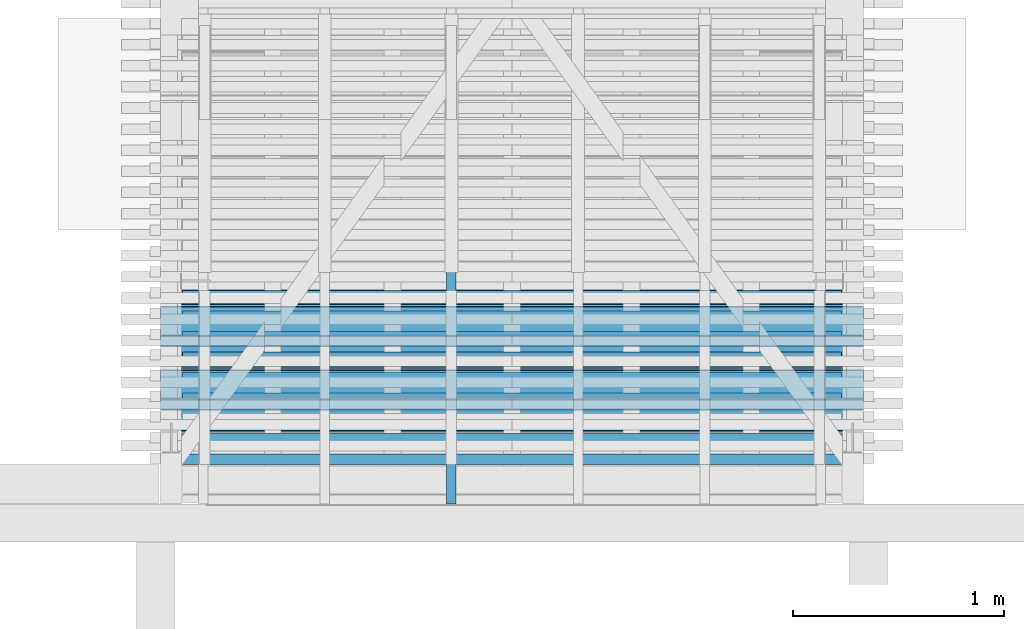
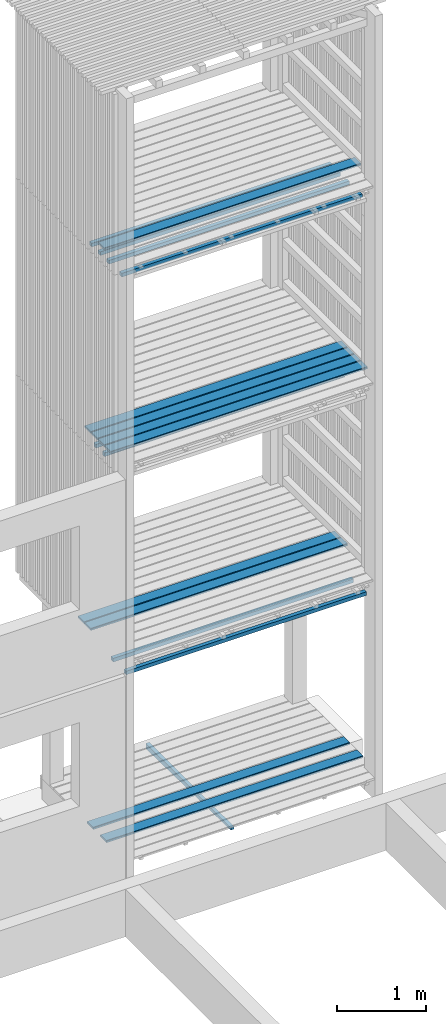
# One storey, part 66 of 182: 18 beams.
"""IFC2X3 building model written with IfcOpenShell, lengths in metres."""

from ifc_helpers import new_model, si_unit, frame, origin, place, context, project, spatial, faceted_brep, element, save


model = new_model("IFC2X3")

# Units and contexts
model_context = context("Model", 3, precision=1e-06, world=origin())
ifc_project = project(units=[si_unit("LENGTHUNIT", "METRE"), si_unit("PLANEANGLEUNIT", "RADIAN")], contexts=[model_context])

# Site, building, storey
site = spatial("IfcSite", under=ifc_project, CompositionType="ELEMENT")
building = spatial("IfcBuilding", under=site, CompositionType="ELEMENT")
storey = spatial("IfcBuildingStorey", under=building, Name="vs", CompositionType="ELEMENT", Elevation=-0.85)

# Beams
placement = place(None, origin())
beam_1_placement = place(placement, frame((26.374999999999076, 10.884577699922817, 5.433499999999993), z_axis=(0.0, 0.0, 1.0), x_axis=(-1.0, -2e-15, 0.0)))
element("IfcBeam", 1, at=beam_1_placement, inside=storey, Name="Caillebotis", context=model_context, shape_type="Brep", body=[
    faceted_brep([(3.329999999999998, -0.072500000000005, -0.0135), (3.329999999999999, 0.072499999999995, -0.0135), (3.329999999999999, 0.072499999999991, 0.0085), (3.329999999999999, 0.067499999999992, 0.0135), (3.329999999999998, -0.067500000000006, 0.0135), (3.329999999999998, -0.072500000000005, 0.008500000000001), (0.0, -0.072500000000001, 0.008500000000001), (0.0, -0.067499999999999, 0.0135), (0.0, 0.067500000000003, 0.0135), (0.0, 0.072500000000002, 0.0085), (0.0, 0.072500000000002, -0.0135), (0.0, -0.072500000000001, -0.0135), (3.329999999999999, 0.072499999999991, 0.0085), (3.329999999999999, 0.072499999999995, -0.0135), (0.0, 0.072500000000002, -0.0135), (0.0, 0.072500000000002, 0.0085), (3.329999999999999, 0.067499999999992, 0.0135), (3.329999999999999, 0.072499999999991, 0.0085), (0.0, 0.072500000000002, 0.0085), (0.0, 0.067500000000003, 0.0135), (3.329999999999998, -0.067500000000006, 0.0135), (3.329999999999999, 0.067499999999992, 0.0135), (0.0, 0.067500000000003, 0.0135), (0.0, -0.067499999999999, 0.0135), (3.329999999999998, -0.072500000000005, 0.008500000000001), (3.329999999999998, -0.067500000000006, 0.0135), (0.0, -0.067499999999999, 0.0135), (0.0, -0.072500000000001, 0.008500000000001), (3.329999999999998, -0.072500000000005, -0.0135), (3.329999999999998, -0.072500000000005, 0.008500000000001), (0.0, -0.072500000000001, 0.008500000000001), (0.0, -0.072500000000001, -0.0135), (0.0, 0.072500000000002, -0.0135), (3.329999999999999, 0.072499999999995, -0.0135), (3.329999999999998, -0.072500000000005, -0.0135), (0.0, -0.072500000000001, -0.0135)], [[[0, 1, 2, 3, 4, 5]], [[6, 7, 8, 9, 10, 11]], [[12, 13, 14, 15]], [[16, 17, 18, 19]], [[20, 21, 22, 23]], [[24, 25, 26, 27]], [[28, 29, 30, 31]], [[32, 33, 34, 35]]]),
])
beam_2_placement = place(placement, frame((26.269999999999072, 11.358202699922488, 5.167999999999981), z_axis=(0.0, 0.0, 1.0), x_axis=(-1.0, -1e-15, 0.0)))
element("IfcBeam", 2, at=beam_2_placement, inside=storey, Name="Bardage", context=model_context, shape_type="Brep", body=[
    faceted_brep([(3.120000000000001, 0.024999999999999, -0.025), (3.120000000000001, -0.025000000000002, -0.025), (-3e-15, -0.025000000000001, -0.025), (-3e-15, 0.025000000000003, -0.025), (-3e-15, -0.025000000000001, -0.025), (3.120000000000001, -0.025000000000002, -0.025), (3.120000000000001, -0.025000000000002, 0.025000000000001), (-3e-15, -0.025000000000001, 0.025000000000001), (3.120000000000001, -0.025000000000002, -0.025), (3.120000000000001, 0.024999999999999, -0.025), (3.120000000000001, 0.024999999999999, 0.025000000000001), (3.120000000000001, -0.025000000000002, 0.025000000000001), (3.120000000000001, 0.024999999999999, 0.025000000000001), (3.120000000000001, 0.024999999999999, -0.025), (-3e-15, 0.025000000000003, -0.025), (-3e-15, 0.025000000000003, 0.025000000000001), (-3e-15, -0.025000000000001, 0.025000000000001), (3.120000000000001, -0.025000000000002, 0.025000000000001), (3.120000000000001, 0.024999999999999, 0.025000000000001), (-3e-15, 0.025000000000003, 0.025000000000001), (-3e-15, -0.025000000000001, -0.025), (-3e-15, -0.025000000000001, 0.025000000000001), (-3e-15, 0.025000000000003, 0.025000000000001), (-3e-15, 0.025000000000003, -0.025)], [[[0, 1, 2, 3]], [[4, 5, 6, 7]], [[8, 9, 10, 11]], [[12, 13, 14, 15]], [[16, 17, 18, 19]], [[20, 21, 22, 23]]]),
])
beam_3_placement = place(placement, frame((26.269999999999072, 11.164452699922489, 5.167999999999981), z_axis=(0.0, 0.0, 1.0), x_axis=(-1.0, 0.0, 0.0)))
element("IfcBeam", 3, at=beam_3_placement, inside=storey, Name="Bardage", context=model_context, shape_type="Brep", body=[
    faceted_brep([(3.120000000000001, 0.025000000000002, -0.025), (3.120000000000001, -0.024999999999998, -0.025), (-3e-15, -0.024999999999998, -0.025), (-3e-15, 0.024999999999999, -0.025), (-3e-15, -0.024999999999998, -0.025), (3.120000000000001, -0.024999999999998, -0.025), (3.120000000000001, -0.024999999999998, 0.025000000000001), (-3e-15, -0.024999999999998, 0.025000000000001), (3.120000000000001, -0.024999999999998, -0.025), (3.120000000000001, 0.025000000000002, -0.025), (3.120000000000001, 0.025000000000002, 0.025000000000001), (3.120000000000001, -0.024999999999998, 0.025000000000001), (3.120000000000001, 0.025000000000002, 0.025000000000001), (3.120000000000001, 0.025000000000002, -0.025), (-3e-15, 0.024999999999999, -0.025), (-3e-15, 0.024999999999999, 0.025000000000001), (-3e-15, -0.024999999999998, 0.025000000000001), (3.120000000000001, -0.024999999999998, 0.025000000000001), (3.120000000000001, 0.025000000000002, 0.025000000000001), (-3e-15, 0.024999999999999, 0.025000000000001), (-3e-15, -0.024999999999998, -0.025), (-3e-15, -0.024999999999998, 0.025000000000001), (-3e-15, 0.024999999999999, 0.025000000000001), (-3e-15, 0.024999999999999, -0.025)], [[[0, 1, 2, 3]], [[4, 5, 6, 7]], [[8, 9, 10, 11]], [[12, 13, 14, 15]], [[16, 17, 18, 19]], [[20, 21, 22, 23]]]),
])
beam_4_placement = place(placement, frame((26.269999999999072, 10.680077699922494, 2.467999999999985), z_axis=(0.0, 0.0, 1.0), x_axis=(-1.0, 0.0, 0.0)))
element("IfcBeam", 4, at=beam_4_placement, inside=storey, Name="Bardage", context=model_context, shape_type="Brep", body=[
    faceted_brep([(3.120000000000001, -0.025000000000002, 0.025), (3.120000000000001, -0.025000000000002, -0.025), (3.120000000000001, 0.024999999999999, -0.025), (3.120000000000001, 0.024999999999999, 0.025), (-3e-15, 0.024999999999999, 0.025), (-3e-15, 0.024999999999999, -0.025), (-3e-15, -0.025000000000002, -0.025), (-3e-15, -0.025000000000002, 0.025), (3.120000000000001, -0.025000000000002, -0.025), (3.120000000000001, -0.025000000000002, 0.025), (-3e-15, -0.025000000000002, 0.025), (-3e-15, -0.025000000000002, -0.025), (3.120000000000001, 0.024999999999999, -0.025), (3.120000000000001, -0.025000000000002, -0.025), (-3e-15, -0.025000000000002, -0.025), (-3e-15, 0.024999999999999, -0.025), (3.120000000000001, 0.024999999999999, 0.025), (3.120000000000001, 0.024999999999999, -0.025), (-3e-15, 0.024999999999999, -0.025), (-3e-15, 0.024999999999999, 0.025), (3.120000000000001, -0.025000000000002, 0.025), (3.120000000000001, 0.024999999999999, 0.025), (-3e-15, 0.024999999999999, 0.025), (-3e-15, -0.025000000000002, 0.025)], [[[0, 1, 2, 3]], [[4, 5, 6, 7]], [[8, 9, 10, 11]], [[12, 13, 14, 15]], [[16, 17, 18, 19]], [[20, 21, 22, 23]]]),
])
beam_5_placement = place(placement, frame((26.374999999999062, 10.984577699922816, 0.033500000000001), z_axis=(0.0, 0.0, 1.0), x_axis=(-1.0, -1e-15, 0.0)))
element("IfcBeam", 5, at=beam_5_placement, inside=storey, Name="Caillebotis", context=model_context, shape_type="Brep", body=[
    faceted_brep([(3.329999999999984, -0.067500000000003, 0.0135), (3.329999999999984, -0.072500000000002, 0.008500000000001), (3.329999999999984, -0.072499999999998, -0.013500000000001), (3.329999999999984, 0.072499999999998, -0.013500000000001), (3.329999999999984, 0.072499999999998, 0.0085), (3.329999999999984, 0.067500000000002, 0.0135), (0.0, 0.067500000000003, 0.0135), (0.0, 0.072500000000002, 0.0085), (0.0, 0.072500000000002, -0.013500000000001), (0.0, -0.072499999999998, -0.013500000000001), (0.0, -0.072499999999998, 0.008500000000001), (0.0, -0.067499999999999, 0.0135), (3.329999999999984, -0.072499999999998, -0.013500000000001), (3.329999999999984, -0.072500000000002, 0.008500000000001), (0.0, -0.072499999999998, 0.008500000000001), (0.0, -0.072499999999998, -0.013500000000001), (3.329999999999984, 0.072499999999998, -0.013500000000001), (3.329999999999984, -0.072499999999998, -0.013500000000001), (0.0, -0.072499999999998, -0.013500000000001), (0.0, 0.072500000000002, -0.013500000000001), (3.329999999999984, 0.072499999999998, 0.0085), (3.329999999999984, 0.072499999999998, -0.013500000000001), (0.0, 0.072500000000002, -0.013500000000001), (0.0, 0.072500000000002, 0.0085), (3.329999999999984, 0.067500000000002, 0.0135), (3.329999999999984, 0.072499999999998, 0.0085), (0.0, 0.072500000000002, 0.0085), (0.0, 0.067500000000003, 0.0135), (3.329999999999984, -0.067500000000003, 0.0135), (3.329999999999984, 0.067500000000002, 0.0135), (0.0, 0.067500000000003, 0.0135), (0.0, -0.067499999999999, 0.0135), (0.0, -0.072499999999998, 0.008500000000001), (3.329999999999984, -0.072500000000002, 0.008500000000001), (3.329999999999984, -0.067500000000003, 0.0135), (0.0, -0.067499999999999, 0.0135)], [[[0, 1, 2, 3, 4, 5]], [[6, 7, 8, 9, 10, 11]], [[12, 13, 14, 15]], [[16, 17, 18, 19]], [[20, 21, 22, 23]], [[24, 25, 26, 27]], [[28, 29, 30, 31]], [[32, 33, 34, 35]]]),
])
beam_6_placement = place(placement, frame((26.374999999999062, 11.484577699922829, 2.733499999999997), z_axis=(0.0, 0.0, 1.0), x_axis=(-1.0, -8e-15, 0.0)))
element("IfcBeam", 6, at=beam_6_placement, inside=storey, Name="Caillebotis", context=model_context, shape_type="Brep", body=[
    faceted_brep([(3.329999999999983, -0.072500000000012, -0.0135), (3.329999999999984, 0.072499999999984, -0.0135), (3.329999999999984, 0.072499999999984, 0.0085), (3.329999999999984, 0.067499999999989, 0.0135), (3.329999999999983, -0.067500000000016, 0.0135), (3.329999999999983, -0.072500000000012, 0.008500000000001), (-1.5e-14, -0.072499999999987, 0.008500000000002), (-1.5e-14, -0.067499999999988, 0.0135), (-1.4e-14, 0.067500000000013, 0.0135), (-1.4e-14, 0.072500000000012, 0.0085), (-1.4e-14, 0.072500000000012, -0.0135), (-1.5e-14, -0.072499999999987, -0.0135), (3.329999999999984, 0.072499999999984, 0.0085), (3.329999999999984, 0.072499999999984, -0.0135), (-1.4e-14, 0.072500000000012, -0.0135), (-1.4e-14, 0.072500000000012, 0.0085), (3.329999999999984, 0.067499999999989, 0.0135), (3.329999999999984, 0.072499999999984, 0.0085), (-1.4e-14, 0.072500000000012, 0.0085), (-1.4e-14, 0.067500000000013, 0.0135), (3.329999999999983, -0.067500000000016, 0.0135), (3.329999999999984, 0.067499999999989, 0.0135), (-1.4e-14, 0.067500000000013, 0.0135), (-1.5e-14, -0.067499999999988, 0.0135), (3.329999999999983, -0.072500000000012, 0.008500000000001), (3.329999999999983, -0.067500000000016, 0.0135), (-1.5e-14, -0.067499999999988, 0.0135), (-1.5e-14, -0.072499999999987, 0.008500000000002), (3.329999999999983, -0.072500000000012, -0.0135), (3.329999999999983, -0.072500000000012, 0.008500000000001), (-1.5e-14, -0.072499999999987, 0.008500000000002), (-1.5e-14, -0.072499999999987, -0.0135), (-1.4e-14, 0.072500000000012, -0.0135), (3.329999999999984, 0.072499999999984, -0.0135), (3.329999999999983, -0.072500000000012, -0.0135), (-1.5e-14, -0.072499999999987, -0.0135)], [[[0, 1, 2, 3, 4, 5]], [[6, 7, 8, 9, 10, 11]], [[12, 13, 14, 15]], [[16, 17, 18, 19]], [[20, 21, 22, 23]], [[24, 25, 26, 27]], [[28, 29, 30, 31]], [[32, 33, 34, 35]]]),
])
beam_7_placement = place(placement, frame((26.374999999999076, 11.18457769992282, 5.433499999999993), z_axis=(0.0, 0.0, 1.0), x_axis=(-1.0, 0.0, 0.0)))
element("IfcBeam", 7, at=beam_7_placement, inside=storey, Name="Caillebotis", context=model_context, shape_type="Brep", body=[
    faceted_brep([(3.329999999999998, -0.072499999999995, -0.0135), (3.329999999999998, 0.072500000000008, -0.0135), (3.329999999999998, 0.072500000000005, 0.0085), (3.329999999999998, 0.067500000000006, 0.0135), (3.329999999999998, -0.067499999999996, 0.0135), (3.329999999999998, -0.072499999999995, 0.008500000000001), (0.0, -0.072499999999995, 0.008500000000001), (0.0, -0.067499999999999, 0.0135), (0.0, 0.067500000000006, 0.0135), (0.0, 0.072500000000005, 0.0085), (0.0, 0.072500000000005, -0.0135), (0.0, -0.072499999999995, -0.0135), (3.329999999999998, 0.072500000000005, 0.0085), (3.329999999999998, 0.072500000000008, -0.0135), (0.0, 0.072500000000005, -0.0135), (0.0, 0.072500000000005, 0.0085), (3.329999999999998, 0.067500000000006, 0.0135), (3.329999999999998, 0.072500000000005, 0.0085), (0.0, 0.072500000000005, 0.0085), (0.0, 0.067500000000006, 0.0135), (3.329999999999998, -0.067499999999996, 0.0135), (3.329999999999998, 0.067500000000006, 0.0135), (0.0, 0.067500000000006, 0.0135), (0.0, -0.067499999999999, 0.0135), (3.329999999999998, -0.072499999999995, 0.008500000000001), (3.329999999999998, -0.067499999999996, 0.0135), (0.0, -0.067499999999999, 0.0135), (0.0, -0.072499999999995, 0.008500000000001), (3.329999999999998, -0.072499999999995, -0.0135), (3.329999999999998, -0.072499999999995, 0.008500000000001), (0.0, -0.072499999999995, 0.008500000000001), (0.0, -0.072499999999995, -0.0135), (0.0, 0.072500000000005, -0.0135), (3.329999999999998, 0.072500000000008, -0.0135), (3.329999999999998, -0.072499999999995, -0.0135), (0.0, -0.072499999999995, -0.0135)], [[[0, 1, 2, 3, 4, 5]], [[6, 7, 8, 9, 10, 11]], [[12, 13, 14, 15]], [[16, 17, 18, 19]], [[20, 21, 22, 23]], [[24, 25, 26, 27]], [[28, 29, 30, 31]], [[32, 33, 34, 35]]]),
])
beam_8_placement = place(placement, frame((26.269999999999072, 10.97070269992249, 2.467999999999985), z_axis=(0.0, 0.0, 1.0), x_axis=(-1.0, -1e-15, 0.0)))
element("IfcBeam", 8, at=beam_8_placement, inside=storey, Name="Bardage", context=model_context, shape_type="Brep", body=[
    faceted_brep([(3.120000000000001, 0.024999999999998, -0.025), (3.120000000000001, -0.025000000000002, -0.025), (-3e-15, -0.024999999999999, -0.025), (-3e-15, 0.025000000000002, -0.025), (-3e-15, -0.024999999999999, -0.025), (3.120000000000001, -0.025000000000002, -0.025), (3.120000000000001, -0.025000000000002, 0.025), (-3e-15, -0.024999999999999, 0.025), (3.120000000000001, -0.025000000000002, -0.025), (3.120000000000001, 0.024999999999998, -0.025), (3.120000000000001, 0.024999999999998, 0.025), (3.120000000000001, -0.025000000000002, 0.025), (3.120000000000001, 0.024999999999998, 0.025), (3.120000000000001, 0.024999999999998, -0.025), (-3e-15, 0.025000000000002, -0.025), (-3e-15, 0.025000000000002, 0.025), (-3e-15, -0.024999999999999, 0.025), (3.120000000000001, -0.025000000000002, 0.025), (3.120000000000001, 0.024999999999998, 0.025), (-3e-15, 0.025000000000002, 0.025), (-3e-15, -0.024999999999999, -0.025), (-3e-15, -0.024999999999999, 0.025), (-3e-15, 0.025000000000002, 0.025), (-3e-15, 0.025000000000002, -0.025)], [[[0, 1, 2, 3]], [[4, 5, 6, 7]], [[8, 9, 10, 11]], [[12, 13, 14, 15]], [[16, 17, 18, 19]], [[20, 21, 22, 23]]]),
])
beam_9_placement = place(placement, frame((26.374999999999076, 11.334577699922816, 2.733499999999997), z_axis=(0.0, 0.0, 1.0), x_axis=(-1.0, 0.0, 0.0)))
element("IfcBeam", 9, at=beam_9_placement, inside=storey, Name="Caillebotis", context=model_context, shape_type="Brep", body=[
    faceted_brep([(3.329999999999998, -0.072499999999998, -0.0135), (3.329999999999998, 0.072500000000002, -0.0135), (3.329999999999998, 0.072500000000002, 0.0085), (3.329999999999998, 0.067500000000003, 0.0135), (3.329999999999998, -0.067500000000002, 0.0135), (3.329999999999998, -0.072499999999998, 0.008500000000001), (0.0, -0.072499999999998, 0.008500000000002), (0.0, -0.067500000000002, 0.0135), (0.0, 0.067499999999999, 0.013500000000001), (0.0, 0.072499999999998, 0.0085), (0.0, 0.072499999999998, -0.0135), (0.0, -0.072499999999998, -0.0135), (3.329999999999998, 0.072500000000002, 0.0085), (3.329999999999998, 0.072500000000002, -0.0135), (0.0, 0.072499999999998, -0.0135), (0.0, 0.072499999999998, 0.0085), (3.329999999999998, 0.067500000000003, 0.0135), (3.329999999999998, 0.072500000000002, 0.0085), (0.0, 0.072499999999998, 0.0085), (0.0, 0.067499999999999, 0.013500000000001), (3.329999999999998, -0.067500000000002, 0.0135), (3.329999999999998, 0.067500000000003, 0.0135), (0.0, 0.067499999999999, 0.013500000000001), (0.0, -0.067500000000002, 0.0135), (3.329999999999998, -0.072499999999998, 0.008500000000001), (3.329999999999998, -0.067500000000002, 0.0135), (0.0, -0.067500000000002, 0.0135), (0.0, -0.072499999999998, 0.008500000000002), (3.329999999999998, -0.072499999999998, -0.0135), (3.329999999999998, -0.072499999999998, 0.008500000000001), (0.0, -0.072499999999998, 0.008500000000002), (0.0, -0.072499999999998, -0.0135), (0.0, 0.072499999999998, -0.0135), (3.329999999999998, 0.072500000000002, -0.0135), (3.329999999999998, -0.072499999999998, -0.0135), (0.0, -0.072499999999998, -0.0135)], [[[0, 1, 2, 3, 4, 5]], [[6, 7, 8, 9, 10, 11]], [[12, 13, 14, 15]], [[16, 17, 18, 19]], [[20, 21, 22, 23]], [[24, 25, 26, 27]], [[28, 29, 30, 31]], [[32, 33, 34, 35]]]),
])
beam_10_placement = place(placement, frame((26.374999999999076, 11.034577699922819, 5.433499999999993), z_axis=(0.0, 0.0, 1.0), x_axis=(-1.0, -1e-15, 0.0)))
element("IfcBeam", 10, at=beam_10_placement, inside=storey, Name="Caillebotis", context=model_context, shape_type="Brep", body=[
    faceted_brep([(3.329999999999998, -0.072500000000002, -0.0135), (3.329999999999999, 0.072500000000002, -0.0135), (3.329999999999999, 0.072500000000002, 0.0085), (3.329999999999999, 0.067499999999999, 0.0135), (3.329999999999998, -0.067499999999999, 0.0135), (3.329999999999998, -0.072500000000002, 0.008500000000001), (0.0, -0.072499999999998, 0.008500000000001), (0.0, -0.067499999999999, 0.0135), (0.0, 0.067500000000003, 0.0135), (0.0, 0.072500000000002, 0.0085), (0.0, 0.072500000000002, -0.0135), (0.0, -0.072499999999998, -0.0135), (3.329999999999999, 0.072500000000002, 0.0085), (3.329999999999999, 0.072500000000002, -0.0135), (0.0, 0.072500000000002, -0.0135), (0.0, 0.072500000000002, 0.0085), (3.329999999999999, 0.067499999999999, 0.0135), (3.329999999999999, 0.072500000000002, 0.0085), (0.0, 0.072500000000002, 0.0085), (0.0, 0.067500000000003, 0.0135), (3.329999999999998, -0.067499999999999, 0.0135), (3.329999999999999, 0.067499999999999, 0.0135), (0.0, 0.067500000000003, 0.0135), (0.0, -0.067499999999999, 0.0135), (3.329999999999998, -0.072500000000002, 0.008500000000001), (3.329999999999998, -0.067499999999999, 0.0135), (0.0, -0.067499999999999, 0.0135), (0.0, -0.072499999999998, 0.008500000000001), (3.329999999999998, -0.072500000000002, -0.0135), (3.329999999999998, -0.072500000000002, 0.008500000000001), (0.0, -0.072499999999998, 0.008500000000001), (0.0, -0.072499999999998, -0.0135), (0.0, 0.072500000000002, -0.0135), (3.329999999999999, 0.072500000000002, -0.0135), (3.329999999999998, -0.072500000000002, -0.0135), (0.0, -0.072499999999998, -0.0135)], [[[0, 1, 2, 3, 4, 5]], [[6, 7, 8, 9, 10, 11]], [[12, 13, 14, 15]], [[16, 17, 18, 19]], [[20, 21, 22, 23]], [[24, 25, 26, 27]], [[28, 29, 30, 31]], [[32, 33, 34, 35]]]),
])
beam_11_placement = place(placement, frame((26.269999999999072, 11.067577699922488, 7.867999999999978), z_axis=(0.0, 0.0, 1.0), x_axis=(-1.0, 0.0, 0.0)))
element("IfcBeam", 11, at=beam_11_placement, inside=storey, Name="Bardage", context=model_context, shape_type="Brep", body=[
    faceted_brep([(3.120000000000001, 0.025000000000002, -0.025000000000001), (3.120000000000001, -0.025000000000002, -0.025000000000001), (-3e-15, -0.025000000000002, -0.025000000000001), (-3e-15, 0.024999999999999, -0.025000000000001), (-3e-15, -0.025000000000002, -0.025000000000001), (3.120000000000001, -0.025000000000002, -0.025000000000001), (3.120000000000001, -0.025000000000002, 0.024999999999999), (-3e-15, -0.025000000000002, 0.024999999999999), (3.120000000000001, -0.025000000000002, -0.025000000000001), (3.120000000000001, 0.025000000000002, -0.025000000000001), (3.120000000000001, 0.025000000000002, 0.024999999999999), (3.120000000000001, -0.025000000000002, 0.024999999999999), (3.120000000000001, 0.025000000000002, 0.024999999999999), (3.120000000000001, 0.025000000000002, -0.025000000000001), (-3e-15, 0.024999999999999, -0.025000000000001), (-3e-15, 0.024999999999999, 0.024999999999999), (-3e-15, -0.025000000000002, 0.024999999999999), (3.120000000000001, -0.025000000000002, 0.024999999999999), (3.120000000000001, 0.025000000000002, 0.024999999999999), (-3e-15, 0.024999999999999, 0.024999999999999), (-3e-15, -0.025000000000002, -0.025000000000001), (-3e-15, -0.025000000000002, 0.024999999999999), (-3e-15, 0.024999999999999, 0.024999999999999), (-3e-15, 0.024999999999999, -0.025000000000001)], [[[0, 1, 2, 3]], [[4, 5, 6, 7]], [[8, 9, 10, 11]], [[12, 13, 14, 15]], [[16, 17, 18, 19]], [[20, 21, 22, 23]]]),
])
beam_12_placement = place(placement, frame((26.374999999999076, 11.334577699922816, 5.433499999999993), z_axis=(0.0, 0.0, 1.0), x_axis=(-1.0, 0.0, 0.0)))
element("IfcBeam", 12, at=beam_12_placement, inside=storey, Name="Caillebotis", context=model_context, shape_type="Brep", body=[
    faceted_brep([(3.329999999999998, -0.072499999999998, -0.0135), (3.329999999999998, 0.072500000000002, -0.0135), (3.329999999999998, 0.072500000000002, 0.0085), (3.329999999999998, 0.067500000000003, 0.0135), (3.329999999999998, -0.067500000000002, 0.0135), (3.329999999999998, -0.072499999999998, 0.008500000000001), (0.0, -0.072499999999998, 0.008500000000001), (0.0, -0.067500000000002, 0.0135), (0.0, 0.067500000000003, 0.0135), (0.0, 0.072499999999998, 0.0085), (0.0, 0.072499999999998, -0.0135), (0.0, -0.072499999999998, -0.0135), (3.329999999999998, 0.072500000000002, 0.0085), (3.329999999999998, 0.072500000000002, -0.0135), (0.0, 0.072499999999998, -0.0135), (0.0, 0.072499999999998, 0.0085), (3.329999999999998, 0.067500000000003, 0.0135), (3.329999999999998, 0.072500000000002, 0.0085), (0.0, 0.072499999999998, 0.0085), (0.0, 0.067500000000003, 0.0135), (3.329999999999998, -0.067500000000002, 0.0135), (3.329999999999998, 0.067500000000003, 0.0135), (0.0, 0.067500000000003, 0.0135), (0.0, -0.067500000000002, 0.0135), (3.329999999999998, -0.072499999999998, 0.008500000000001), (3.329999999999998, -0.067500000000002, 0.0135), (0.0, -0.067500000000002, 0.0135), (0.0, -0.072499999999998, 0.008500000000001), (3.329999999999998, -0.072499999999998, -0.0135), (3.329999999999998, -0.072499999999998, 0.008500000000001), (0.0, -0.072499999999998, 0.008500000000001), (0.0, -0.072499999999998, -0.0135), (0.0, 0.072499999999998, -0.0135), (3.329999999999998, 0.072500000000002, -0.0135), (3.329999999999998, -0.072499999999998, -0.0135), (0.0, -0.072499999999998, -0.0135)], [[[0, 1, 2, 3, 4, 5]], [[6, 7, 8, 9, 10, 11]], [[12, 13, 14, 15]], [[16, 17, 18, 19]], [[20, 21, 22, 23]], [[24, 25, 26, 27]], [[28, 29, 30, 31]], [[32, 33, 34, 35]]]),
])
beam_13_placement = place(placement, frame((26.269999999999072, 10.776952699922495, 7.867999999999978), z_axis=(0.0, 0.0, 1.0), x_axis=(-1.0, 0.0, 0.0)))
element("IfcBeam", 13, at=beam_13_placement, inside=storey, Name="Bardage", context=model_context, shape_type="Brep", body=[
    faceted_brep([(3.120000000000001, 0.025000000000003, -0.025000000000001), (3.120000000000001, -0.024999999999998, -0.025000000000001), (-3e-15, -0.024999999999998, -0.025000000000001), (-3e-15, 0.025000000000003, -0.025000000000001), (-3e-15, -0.024999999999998, -0.025000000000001), (3.120000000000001, -0.024999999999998, -0.025000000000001), (3.120000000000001, -0.024999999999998, 0.024999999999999), (-3e-15, -0.024999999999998, 0.024999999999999), (3.120000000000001, -0.024999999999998, -0.025000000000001), (3.120000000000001, 0.025000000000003, -0.025000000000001), (3.120000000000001, 0.025000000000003, 0.024999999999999), (3.120000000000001, -0.024999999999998, 0.024999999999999), (3.120000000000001, 0.025000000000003, 0.024999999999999), (3.120000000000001, 0.025000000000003, -0.025000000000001), (-3e-15, 0.025000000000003, -0.025000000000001), (-3e-15, 0.025000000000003, 0.024999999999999), (-3e-15, -0.024999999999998, 0.024999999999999), (3.120000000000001, -0.024999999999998, 0.024999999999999), (3.120000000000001, 0.025000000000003, 0.024999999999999), (-3e-15, 0.025000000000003, 0.024999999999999), (-3e-15, -0.024999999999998, -0.025000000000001), (-3e-15, -0.024999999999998, 0.024999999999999), (-3e-15, 0.025000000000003, 0.024999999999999), (-3e-15, 0.025000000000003, -0.025000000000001)], [[[0, 1, 2, 3]], [[4, 5, 6, 7]], [[8, 9, 10, 11]], [[12, 13, 14, 15]], [[16, 17, 18, 19]], [[20, 21, 22, 23]]]),
])
beam_14_placement = place(placement, frame((26.374999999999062, 11.284577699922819, 0.033500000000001), z_axis=(0.0, 0.0, 1.0), x_axis=(-1.0, -1e-15, 0.0)))
element("IfcBeam", 14, at=beam_14_placement, inside=storey, Name="Caillebotis", context=model_context, shape_type="Brep", body=[
    faceted_brep([(3.329999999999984, -0.067499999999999, 0.0135), (3.329999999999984, -0.072500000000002, 0.008500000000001), (3.329999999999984, -0.072500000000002, -0.013500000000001), (3.329999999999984, 0.072500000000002, -0.013500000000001), (3.329999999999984, 0.072500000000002, 0.0085), (3.329999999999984, 0.067499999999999, 0.0135), (0.0, 0.067500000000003, 0.0135), (0.0, 0.072500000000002, 0.0085), (0.0, 0.072500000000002, -0.013500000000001), (0.0, -0.072499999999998, -0.013500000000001), (0.0, -0.072499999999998, 0.008500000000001), (0.0, -0.067499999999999, 0.0135), (3.329999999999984, -0.072500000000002, -0.013500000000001), (3.329999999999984, -0.072500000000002, 0.008500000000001), (0.0, -0.072499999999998, 0.008500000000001), (0.0, -0.072499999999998, -0.013500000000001), (3.329999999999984, 0.072500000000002, -0.013500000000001), (3.329999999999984, -0.072500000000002, -0.013500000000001), (0.0, -0.072499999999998, -0.013500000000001), (0.0, 0.072500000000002, -0.013500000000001), (3.329999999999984, 0.072500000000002, 0.0085), (3.329999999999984, 0.072500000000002, -0.013500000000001), (0.0, 0.072500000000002, -0.013500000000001), (0.0, 0.072500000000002, 0.0085), (3.329999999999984, 0.067499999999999, 0.0135), (3.329999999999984, 0.072500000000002, 0.0085), (0.0, 0.072500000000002, 0.0085), (0.0, 0.067500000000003, 0.0135), (3.329999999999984, -0.067499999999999, 0.0135), (3.329999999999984, 0.067499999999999, 0.0135), (0.0, 0.067500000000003, 0.0135), (0.0, -0.067499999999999, 0.0135), (0.0, -0.072499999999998, 0.008500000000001), (3.329999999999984, -0.072500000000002, 0.008500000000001), (3.329999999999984, -0.067499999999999, 0.0135), (0.0, -0.067499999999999, 0.0135)], [[[0, 1, 2, 3, 4, 5]], [[6, 7, 8, 9, 10, 11]], [[12, 13, 14, 15]], [[16, 17, 18, 19]], [[20, 21, 22, 23]], [[24, 25, 26, 27]], [[28, 29, 30, 31]], [[32, 33, 34, 35]]]),
])
beam_15_placement = place(placement, frame((26.269999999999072, 11.261327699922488, 7.867999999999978), z_axis=(0.0, 0.0, 1.0), x_axis=(-1.0, 0.0, 0.0)))
element("IfcBeam", 15, at=beam_15_placement, inside=storey, Name="Bardage", context=model_context, shape_type="Brep", body=[
    faceted_brep([(3.120000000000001, 0.024999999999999, -0.025000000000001), (3.120000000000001, -0.024999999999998, -0.025000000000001), (-3e-15, -0.025000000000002, -0.025000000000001), (-3e-15, 0.024999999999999, -0.025000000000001), (-3e-15, -0.025000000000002, -0.025000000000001), (3.120000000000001, -0.024999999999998, -0.025000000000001), (3.120000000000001, -0.024999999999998, 0.024999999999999), (-3e-15, -0.025000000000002, 0.024999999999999), (3.120000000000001, -0.024999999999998, -0.025000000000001), (3.120000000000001, 0.024999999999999, -0.025000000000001), (3.120000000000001, 0.024999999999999, 0.024999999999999), (3.120000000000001, -0.024999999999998, 0.024999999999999), (3.120000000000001, 0.024999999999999, 0.024999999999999), (3.120000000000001, 0.024999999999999, -0.025000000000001), (-3e-15, 0.024999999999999, -0.025000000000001), (-3e-15, 0.024999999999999, 0.024999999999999), (-3e-15, -0.025000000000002, 0.024999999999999), (3.120000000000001, -0.024999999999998, 0.024999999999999), (3.120000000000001, 0.024999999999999, 0.024999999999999), (-3e-15, 0.024999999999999, 0.024999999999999), (-3e-15, -0.025000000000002, -0.025000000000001), (-3e-15, -0.025000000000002, 0.024999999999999), (-3e-15, 0.024999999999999, 0.024999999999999), (-3e-15, 0.024999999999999, -0.025000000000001)], [[[0, 1, 2, 3]], [[4, 5, 6, 7]], [[8, 9, 10, 11]], [[12, 13, 14, 15]], [[16, 17, 18, 19]], [[20, 21, 22, 23]]]),
])
beam_16_placement = place(placement, frame((26.269999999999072, 11.455077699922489, 7.867999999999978), z_axis=(0.0, 0.0, 1.0), x_axis=(-1.0, -1e-15, 0.0)))
element("IfcBeam", 16, at=beam_16_placement, inside=storey, Name="Bardage", context=model_context, shape_type="Brep", body=[
    faceted_brep([(3.120000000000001, 0.025000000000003, -0.025000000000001), (3.120000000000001, -0.025000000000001, -0.025000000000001), (-3e-15, -0.024999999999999, -0.025000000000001), (-3e-15, 0.025000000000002, -0.025000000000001), (-3e-15, -0.024999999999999, -0.025000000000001), (3.120000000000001, -0.025000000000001, -0.025000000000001), (3.120000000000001, -0.025000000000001, 0.024999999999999), (-3e-15, -0.024999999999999, 0.024999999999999), (3.120000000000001, -0.025000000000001, -0.025000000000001), (3.120000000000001, 0.025000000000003, -0.025000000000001), (3.120000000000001, 0.025000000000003, 0.024999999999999), (3.120000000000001, -0.025000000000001, 0.024999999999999), (3.120000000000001, 0.025000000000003, 0.024999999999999), (3.120000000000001, 0.025000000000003, -0.025000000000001), (-3e-15, 0.025000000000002, -0.025000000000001), (-3e-15, 0.025000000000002, 0.024999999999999), (-3e-15, -0.024999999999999, 0.024999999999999), (3.120000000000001, -0.025000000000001, 0.024999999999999), (3.120000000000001, 0.025000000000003, 0.024999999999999), (-3e-15, 0.025000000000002, 0.024999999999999), (-3e-15, -0.024999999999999, -0.025000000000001), (-3e-15, -0.024999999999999, 0.024999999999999), (-3e-15, 0.025000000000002, 0.024999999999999), (-3e-15, 0.025000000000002, -0.025000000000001)], [[[0, 1, 2, 3]], [[4, 5, 6, 7]], [[8, 9, 10, 11]], [[12, 13, 14, 15]], [[16, 17, 18, 19]], [[20, 21, 22, 23]]]),
])
beam_17_placement = place(placement, frame((24.422999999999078, 10.470077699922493, -0.015599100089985), z_axis=(0.0, 0.0, 1.0), x_axis=(0.0, 1.0, 0.0)))
element("IfcBeam", 17, at=beam_17_placement, inside=storey, Name="Calage", context=model_context, shape_type="Brep", body=[
    faceted_brep([(0.0, 0.022500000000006, 0.002600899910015), (1.91000000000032, 0.022500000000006, -0.035599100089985), (1.91000000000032, -0.022499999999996, -0.035599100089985), (0.0, -0.022499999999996, 0.002600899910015), (0.0, -0.022499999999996, 0.035599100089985), (0.0, 0.022500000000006, 0.035599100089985), (0.0, 0.022500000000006, 0.002600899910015), (0.0, -0.022499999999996, 0.002600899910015), (0.0, 0.022500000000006, 0.035599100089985), (0.0, -0.022499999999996, 0.035599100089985), (1.910000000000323, -0.022499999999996, 0.035599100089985), (1.910000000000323, 0.022500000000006, 0.035599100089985), (0.0, 0.022500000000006, 0.002600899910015), (0.0, 0.022500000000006, 0.035599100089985), (1.910000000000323, 0.022500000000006, 0.035599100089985), (1.91000000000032, 0.022500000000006, -0.035599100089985), (1.91000000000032, 0.022500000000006, -0.035599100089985), (1.910000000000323, 0.022500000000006, 0.035599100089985), (1.910000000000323, -0.022499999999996, 0.035599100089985), (1.91000000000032, -0.022499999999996, -0.035599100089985), (1.91000000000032, -0.022499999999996, -0.035599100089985), (1.910000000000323, -0.022499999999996, 0.035599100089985), (0.0, -0.022499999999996, 0.035599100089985), (0.0, -0.022499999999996, 0.002600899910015)], [[[0, 1, 2, 3]], [[4, 5, 6, 7]], [[8, 9, 10, 11]], [[12, 13, 14, 15]], [[16, 17, 18, 19]], [[20, 21, 22, 23]]]),
])
beam_18_placement = place(placement, frame((26.374999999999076, 11.034577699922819, 8.13349999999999), z_axis=(0.0, 0.0, 1.0), x_axis=(-1.0, -1e-15, 0.0)))
element("IfcBeam", 18, at=beam_18_placement, inside=storey, Name="Caillebotis", context=model_context, shape_type="Brep", body=[
    faceted_brep([(3.329999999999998, -0.072500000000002, -0.013500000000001), (3.329999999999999, 0.072500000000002, -0.013500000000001), (3.329999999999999, 0.072500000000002, 0.008499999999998), (3.329999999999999, 0.067499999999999, 0.013499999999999), (3.329999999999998, -0.067499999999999, 0.013499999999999), (3.329999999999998, -0.072500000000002, 0.0085), (0.0, -0.072499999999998, 0.0085), (0.0, -0.067499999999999, 0.013499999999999), (0.0, 0.067500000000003, 0.013499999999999), (0.0, 0.072500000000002, 0.008499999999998), (0.0, 0.072500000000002, -0.013500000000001), (0.0, -0.072499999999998, -0.013500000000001), (3.329999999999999, 0.072500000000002, 0.008499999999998), (3.329999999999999, 0.072500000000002, -0.013500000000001), (0.0, 0.072500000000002, -0.013500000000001), (0.0, 0.072500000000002, 0.008499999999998), (3.329999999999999, 0.067499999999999, 0.013499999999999), (3.329999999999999, 0.072500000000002, 0.008499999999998), (0.0, 0.072500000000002, 0.008499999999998), (0.0, 0.067500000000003, 0.013499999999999), (3.329999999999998, -0.067499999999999, 0.013499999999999), (3.329999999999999, 0.067499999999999, 0.013499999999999), (0.0, 0.067500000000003, 0.013499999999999), (0.0, -0.067499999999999, 0.013499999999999), (3.329999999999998, -0.072500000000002, 0.0085), (3.329999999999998, -0.067499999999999, 0.013499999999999), (0.0, -0.067499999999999, 0.013499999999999), (0.0, -0.072499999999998, 0.0085), (3.329999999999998, -0.072500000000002, -0.013500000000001), (3.329999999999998, -0.072500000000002, 0.0085), (0.0, -0.072499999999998, 0.0085), (0.0, -0.072499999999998, -0.013500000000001), (0.0, 0.072500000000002, -0.013500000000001), (3.329999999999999, 0.072500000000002, -0.013500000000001), (3.329999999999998, -0.072500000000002, -0.013500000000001), (0.0, -0.072499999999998, -0.013500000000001)], [[[0, 1, 2, 3, 4, 5]], [[6, 7, 8, 9, 10, 11]], [[12, 13, 14, 15]], [[16, 17, 18, 19]], [[20, 21, 22, 23]], [[24, 25, 26, 27]], [[28, 29, 30, 31]], [[32, 33, 34, 35]]]),
])

save(model, "model.ifc")
